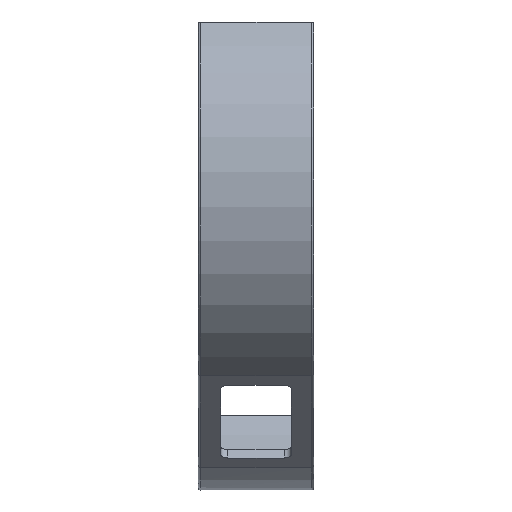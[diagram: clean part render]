
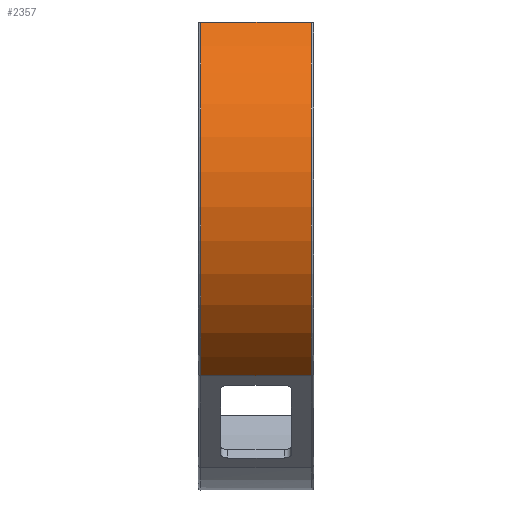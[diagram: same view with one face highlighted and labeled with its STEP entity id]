
A CAD part, left-side view. The second image highlights one B-rep face of the part: STEP entity #2357.
In plain terms, the highlighted cylindrical face has radius 89.833 mm (diameter 179.666 mm), a partial arc.
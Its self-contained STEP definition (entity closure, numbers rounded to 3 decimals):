
#81 = CARTESIAN_POINT ( 'NONE',  ( -54.891, -24.5, 71.112 ) ) ;
#154 = VECTOR ( 'NONE', #1264, 1000. ) ;
#167 = CARTESIAN_POINT ( 'NONE',  ( 0., -23.5, 0. ) ) ;
#220 = LINE ( 'NONE', #1493, #154 ) ;
#365 = DIRECTION ( 'NONE',  ( 0., 1., 0. ) ) ;
#433 = DIRECTION ( 'NONE',  ( 0., 0., 1. ) ) ;
#448 = FACE_OUTER_BOUND ( 'NONE', #1557, .T. ) ;
#640 = ORIENTED_EDGE ( 'NONE', *, *, #2275, .T. ) ;
#649 = CIRCLE ( 'NONE', #819, 89.833 ) ;
#725 = DIRECTION ( 'NONE',  ( 0., 0., 1. ) ) ;
#733 = VERTEX_POINT ( 'NONE', #1222 ) ;
#743 = VERTEX_POINT ( 'NONE', #3114 ) ;
#757 = AXIS2_PLACEMENT_3D ( 'NONE', #167, #2775, #433 ) ;
#819 = AXIS2_PLACEMENT_3D ( 'NONE', #2147, #2770, #3324 ) ;
#889 = ORIENTED_EDGE ( 'NONE', *, *, #1966, .T. ) ;
#913 = CARTESIAN_POINT ( 'NONE',  ( 0., -24.5, 0. ) ) ;
#1087 = VERTEX_POINT ( 'NONE', #1534 ) ;
#1163 = ORIENTED_EDGE ( 'NONE', *, *, #2245, .T. ) ;
#1184 = ORIENTED_EDGE ( 'NONE', *, *, #1922, .F. ) ;
#1222 = CARTESIAN_POINT ( 'NONE',  ( -54.891, -23.5, 71.112 ) ) ;
#1264 = DIRECTION ( 'NONE',  ( 0., 1., 0. ) ) ;
#1364 = LINE ( 'NONE', #81, #2661 ) ;
#1473 = DIRECTION ( 'NONE',  ( 0., 1., 0. ) ) ;
#1493 = CARTESIAN_POINT ( 'NONE',  ( -42.639, -24.5, -79.069 ) ) ;
#1516 = CIRCLE ( 'NONE', #757, 89.833 ) ;
#1534 = CARTESIAN_POINT ( 'NONE',  ( -42.639, 23.5, -79.069 ) ) ;
#1557 = EDGE_LOOP ( 'NONE', ( #1184, #889, #1163, #640 ) ) ;
#1922 = EDGE_CURVE ( 'NONE', #743, #1087, #220, .T. ) ;
#1966 = EDGE_CURVE ( 'NONE', #743, #733, #1516, .T. ) ;
#2147 = CARTESIAN_POINT ( 'NONE',  ( 0., 23.5, 0. ) ) ;
#2231 = AXIS2_PLACEMENT_3D ( 'NONE', #913, #1473, #725 ) ;
#2245 = EDGE_CURVE ( 'NONE', #733, #2731, #1364, .T. ) ;
#2275 = EDGE_CURVE ( 'NONE', #2731, #1087, #649, .T. ) ;
#2357 = ADVANCED_FACE ( 'NONE', ( #448 ), #3248, .T. ) ;
#2661 = VECTOR ( 'NONE', #365, 1000. ) ;
#2731 = VERTEX_POINT ( 'NONE', #3243 ) ;
#2770 = DIRECTION ( 'NONE',  ( 0., -1., 0. ) ) ;
#2775 = DIRECTION ( 'NONE',  ( 0., 1., 0. ) ) ;
#3114 = CARTESIAN_POINT ( 'NONE',  ( -42.639, -23.5, -79.069 ) ) ;
#3243 = CARTESIAN_POINT ( 'NONE',  ( -54.891, 23.5, 71.112 ) ) ;
#3248 = CYLINDRICAL_SURFACE ( 'NONE', #2231, 89.833 ) ;
#3324 = DIRECTION ( 'NONE',  ( 0., 0., -1. ) ) ;
